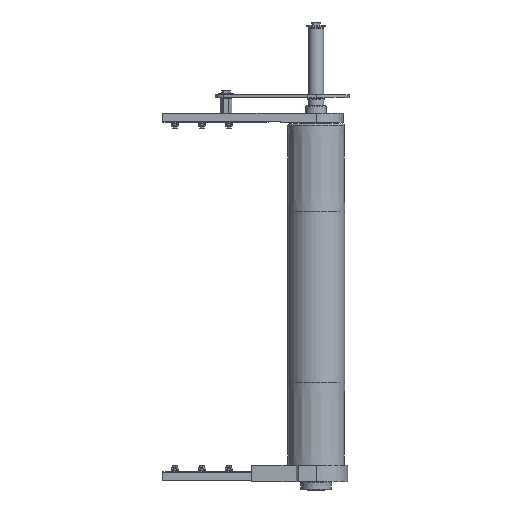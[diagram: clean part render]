
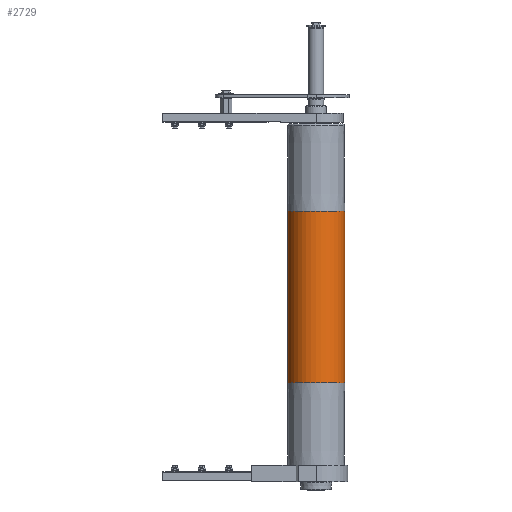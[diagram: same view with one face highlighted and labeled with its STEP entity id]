
A CAD part, front view. The second image highlights one B-rep face of the part: STEP entity #2729.
In plain terms, the highlighted cylindrical face has radius 47.5 mm (diameter 95 mm), a partial arc.
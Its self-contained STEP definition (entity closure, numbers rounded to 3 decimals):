
#41 = DIRECTION ( 'NONE',  ( -1., 0., 0. ) ) ;
#94 = CARTESIAN_POINT ( 'NONE',  ( 142.5, 0., 0. ) ) ;
#1641 = VERTEX_POINT ( 'NONE', #24755 ) ;
#2486 = DIRECTION ( 'NONE',  ( 0., 0., -1. ) ) ;
#2729 = ADVANCED_FACE ( 'NONE', ( #13847 ), #25710, .T. ) ;
#3027 = EDGE_LOOP ( 'NONE', ( #11996, #17825, #21128, #14030 ) ) ;
#5151 = AXIS2_PLACEMENT_3D ( 'NONE', #26057, #41, #21311 ) ;
#5490 = AXIS2_PLACEMENT_3D ( 'NONE', #94, #16672, #2486 ) ;
#6271 = EDGE_CURVE ( 'NONE', #12135, #1641, #21994, .T. ) ;
#6589 = VERTEX_POINT ( 'NONE', #24054 ) ;
#8518 = CARTESIAN_POINT ( 'NONE',  ( 285., 0., -47.5 ) ) ;
#9249 = EDGE_CURVE ( 'NONE', #26306, #1641, #18466, .T. ) ;
#9374 = VECTOR ( 'NONE', #25102, 1000. ) ;
#9459 = LINE ( 'NONE', #27392, #27604 ) ;
#9726 = CIRCLE ( 'NONE', #5490, 47.5 ) ;
#9854 = AXIS2_PLACEMENT_3D ( 'NONE', #24297, #10082, #26657 ) ;
#10082 = DIRECTION ( 'NONE',  ( 1., 0., 0. ) ) ;
#10527 = CARTESIAN_POINT ( 'NONE',  ( 142.5, 0., -47.5 ) ) ;
#10830 = DIRECTION ( 'NONE',  ( -1., 0., 0. ) ) ;
#11996 = ORIENTED_EDGE ( 'NONE', *, *, #6271, .F. ) ;
#12135 = VERTEX_POINT ( 'NONE', #10527 ) ;
#12269 = EDGE_CURVE ( 'NONE', #6589, #26306, #9459, .T. ) ;
#13847 = FACE_OUTER_BOUND ( 'NONE', #3027, .T. ) ;
#14030 = ORIENTED_EDGE ( 'NONE', *, *, #9249, .T. ) ;
#16672 = DIRECTION ( 'NONE',  ( 1., 0., 0. ) ) ;
#17825 = ORIENTED_EDGE ( 'NONE', *, *, #23114, .F. ) ;
#18466 = CIRCLE ( 'NONE', #9854, 47.5 ) ;
#21128 = ORIENTED_EDGE ( 'NONE', *, *, #12269, .T. ) ;
#21311 = DIRECTION ( 'NONE',  ( 0., 0., 1. ) ) ;
#21994 = LINE ( 'NONE', #8518, #9374 ) ;
#23114 = EDGE_CURVE ( 'NONE', #6589, #12135, #9726, .T. ) ;
#23773 = CARTESIAN_POINT ( 'NONE',  ( -142.5, 0., 47.5 ) ) ;
#24054 = CARTESIAN_POINT ( 'NONE',  ( 142.5, 0., 47.5 ) ) ;
#24297 = CARTESIAN_POINT ( 'NONE',  ( -142.5, 0., 0. ) ) ;
#24755 = CARTESIAN_POINT ( 'NONE',  ( -142.5, 0., -47.5 ) ) ;
#25102 = DIRECTION ( 'NONE',  ( -1., 0., 0. ) ) ;
#25710 = CYLINDRICAL_SURFACE ( 'NONE', #5151, 47.5 ) ;
#26057 = CARTESIAN_POINT ( 'NONE',  ( 285., 0., 0. ) ) ;
#26306 = VERTEX_POINT ( 'NONE', #23773 ) ;
#26657 = DIRECTION ( 'NONE',  ( 0., 0., -1. ) ) ;
#27392 = CARTESIAN_POINT ( 'NONE',  ( 285., 0., 47.5 ) ) ;
#27604 = VECTOR ( 'NONE', #10830, 1000. ) ;
